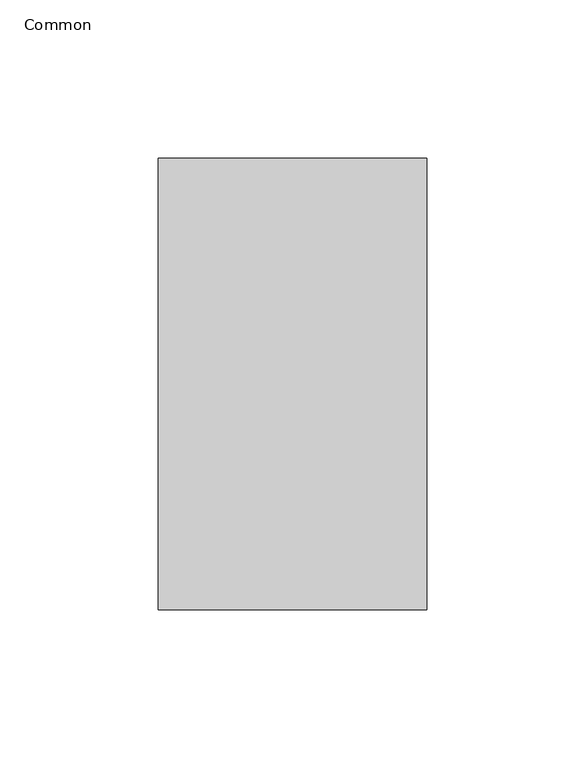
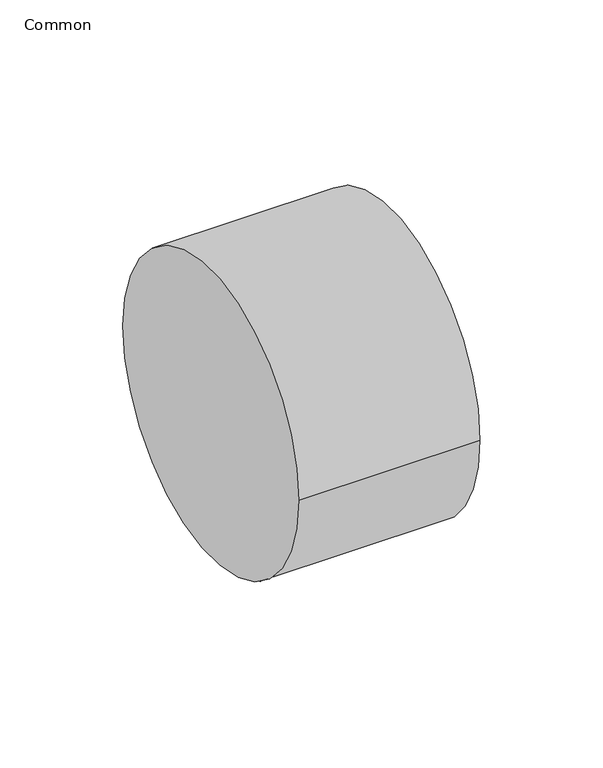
"""IFC4 building model written with IfcOpenShell, lengths in millimetres: pipe fitting geometry, 051_ソケット : Common."""

import ifcopenshell
import ifcopenshell.guid

model = None  # the IFC model being written
_history = None  # IfcOwnerHistory: only IFC2X3 demands one
_inside = {}  # id of a spatial element -> (the spatial element, [elements in it])
_under = {}  # id of a project, library or spatial element -> (it, [spatial elements below it])
_declared = {}  # id of a project -> (the project, [libraries it declares])
_typed = {}  # id of a type object -> (the type object, [elements of that type])
_made_of = {}  # id of a material, layer set ... -> (it, [elements and type objects made of it])


def new_model(schema):
    """Start an empty IFC model of exactly this schema.

    Asked for "IFC4X3", IfcOpenShell would pick the latest addendum, in which some entities
    have other attributes; the version numbers below select the first issue.
    IFC2X3 requires an IfcOwnerHistory on every rooted entity: one is made here for all.
    """
    global model, _history
    if schema == "IFC4X3":
        model = ifcopenshell.file(schema_version=(4, 3, 0, 0))
    else:
        model = ifcopenshell.file(schema=schema)
    _inside.clear()
    _under.clear()
    _declared.clear()
    _typed.clear()
    _made_of.clear()
    _history = None
    if model.schema == "IFC2X3":
        org = make("IfcOrganization", Name="unknown")
        user = make(
            "IfcPersonAndOrganization",
            ThePerson=make("IfcPerson", FamilyName="unknown"),
            TheOrganization=org,
        )
        app = make(
            "IfcApplication",
            ApplicationDeveloper=org,
            Version="unknown",
            ApplicationFullName="unknown",
            ApplicationIdentifier="unknown",
        )
        _history = make(
            "IfcOwnerHistory",
            OwningUser=user,
            OwningApplication=app,
            ChangeAction="ADDED",
            CreationDate=0,
        )
    return model


def make(cls, **values):
    """One entity of the class cls with the attributes given. An attribute that is None is left unset."""
    return model.create_entity(
        cls, **{name: value for name, value in values.items() if value is not None}
    )


def rooted(cls, **values):
    """An entity with a GlobalId (a new one), such as an element, a storey or a relation."""
    return make(cls, GlobalId=ifcopenshell.guid.new(), OwnerHistory=_history, **values)


def si_unit(unit_type, name, prefix=None):
    """IfcSIUnit, for example si_unit("LENGTHUNIT", "METRE", prefix="MILLI")."""
    return make("IfcSIUnit", UnitType=unit_type, Prefix=prefix, Name=name)


def assignment(units):
    """IfcUnitAssignment: the units of a project."""
    return None if units is None else make("IfcUnitAssignment", Units=units)


def point(xyz):
    """IfcCartesianPoint."""
    return None if xyz is None else make("IfcCartesianPoint", Coordinates=xyz)


def direction(xyz):
    """IfcDirection."""
    return None if xyz is None else make("IfcDirection", DirectionRatios=xyz)


def frame(location, z_axis=None, x_axis=None):
    """IfcAxis2Placement3D, a coordinate frame: its origin and axes. An axis left out is left unset."""
    return make(
        "IfcAxis2Placement3D",
        Location=point(location),
        Axis=direction(z_axis),
        RefDirection=direction(x_axis),
    )


def frame_2d(location, x_axis=None):
    """IfcAxis2Placement2D, a coordinate frame in the plane: its origin and x axis."""
    return make(
        "IfcAxis2Placement2D", Location=point(location), RefDirection=direction(x_axis)
    )


def origin():
    """The frame at (0, 0, 0) with its axes left unset."""
    return frame((0.0, 0.0, 0.0))


def origin_2d():
    """The frame at (0, 0) in the plane with its x axis left unset."""
    return frame_2d((0.0, 0.0))


def place(relative_to, where):
    """IfcLocalPlacement: puts the frame where relative to a parent placement (None: the world)."""
    return make(
        "IfcLocalPlacement", PlacementRelTo=relative_to, RelativePlacement=where
    )


def context(
    kind, dimensions, precision=None, world=None, true_north=None, identifier=None
):
    """IfcGeometricRepresentationContext, for example the 3D "Model" context."""
    return make(
        "IfcGeometricRepresentationContext",
        ContextIdentifier=identifier,
        ContextType=kind,
        CoordinateSpaceDimension=dimensions,
        Precision=precision,
        WorldCoordinateSystem=world,
        TrueNorth=true_north,
    )


def project(units=None, contexts=None):
    """IfcProject with its units and contexts."""
    return rooted(
        "IfcProject",
        Name="project",
        RepresentationContexts=contexts,
        UnitsInContext=assignment(units),
    )


def spatial(cls, under=None, at=None, **own):
    """A site, building, storey or space (cls), placed at a placement, below another one or the project."""
    s = rooted(cls, ObjectPlacement=at, **own)
    if under is not None:
        _under.setdefault(under.id(), (under, []))[1].append(s)
    return s


def circle_curve(where, radius):
    """IfcCircle in the frame where."""
    return make("IfcCircle", Position=where, Radius=radius)


def trimmed(basis, trim1, trim2, sense, master):
    """IfcTrimmedCurve: the piece of a basis curve between two trims."""
    return make(
        "IfcTrimmedCurve",
        BasisCurve=basis,
        Trim1=trim1,
        Trim2=trim2,
        SenseAgreement=sense,
        MasterRepresentation=master,
    )


def segment(curve, same_sense, transition):
    """IfcCompositeCurveSegment."""
    return make(
        "IfcCompositeCurveSegment",
        Transition=transition,
        SameSense=same_sense,
        ParentCurve=curve,
    )


def composite_curve(segments, self_intersect=None):
    """IfcCompositeCurve: segments joined end to end."""
    return make("IfcCompositeCurve", Segments=segments, SelfIntersect=self_intersect)


def outline(outer, holes=None, kind="AREA"):
    """IfcArbitraryClosedProfileDef: a profile drawn as a closed curve; with holes, ...WithVoids."""
    if holes is None:
        return make("IfcArbitraryClosedProfileDef", ProfileType=kind, OuterCurve=outer)
    return make(
        "IfcArbitraryProfileDefWithVoids",
        ProfileType=kind,
        OuterCurve=outer,
        InnerCurves=holes,
    )


def extrude(swept, where, along, depth):
    """IfcExtrudedAreaSolid: the profile swept, set in the frame where, extruded along a direction by depth."""
    return make(
        "IfcExtrudedAreaSolid",
        SweptArea=swept,
        Position=where,
        ExtrudedDirection=direction(along),
        Depth=depth,
    )


def shape(context_of_items, identifier, shape_type, items):
    """IfcShapeRepresentation: the items that make up one representation, for example the "Body"."""
    return make(
        "IfcShapeRepresentation",
        ContextOfItems=context_of_items,
        RepresentationIdentifier=identifier,
        RepresentationType=shape_type,
        Items=items,
    )


def source(mapping_origin, context_of_items, identifier, shape_type, items):
    """IfcRepresentationMap: a shape defined once, which mapped items show again and again."""
    return make(
        "IfcRepresentationMap",
        MappingOrigin=mapping_origin,
        MappedRepresentation=shape(context_of_items, identifier, shape_type, items),
    )


def transform(
    local_origin,
    x_axis=None,
    y_axis=None,
    z_axis=None,
    scale=None,
    scale2=None,
    scale3=None,
    uniform=True,
):
    """IfcCartesianTransformationOperator3D, or its non-uniform kind. x_axis, y_axis, z_axis: its Axis1, 2, 3."""
    if uniform:
        return make(
            "IfcCartesianTransformationOperator3D",
            Axis1=direction(x_axis),
            Axis2=direction(y_axis),
            LocalOrigin=point(local_origin),
            Scale=scale,
            Axis3=direction(z_axis),
        )
    return make(
        "IfcCartesianTransformationOperator3DnonUniform",
        Axis1=direction(x_axis),
        Axis2=direction(y_axis),
        LocalOrigin=point(local_origin),
        Scale=scale,
        Axis3=direction(z_axis),
        Scale2=scale2,
        Scale3=scale3,
    )


def mapped(mapping_source, mapping_target):
    """IfcMappedItem: shows the shape of a source again, moved by a transform."""
    return make(
        "IfcMappedItem", MappingSource=mapping_source, MappingTarget=mapping_target
    )


def made_of(thing, what):
    """Note that an element or type object is made of a material, layer set ...; save() writes the relation."""
    if what is not None:
        _made_of.setdefault(what.id(), (what, []))[1].append(thing)
    return thing


def element(
    cls,
    number,
    at=None,
    inside=None,
    cuts=None,
    type_object=None,
    material=None,
    context=None,
    identifier="Body",
    shape_type=None,
    held_by="IfcProductDefinitionShape",
    body=None,
    shapes=None,
    **own,
):
    """One element of the class cls, such as IfcWall. Its Tag is "e" and its number.

    at: its placement. inside: the storey or other place that contains it. cuts: it is an
    opening in that element (IfcRelVoidsElement). A single representation is given by context,
    identifier, shape_type and body (its items); several are given by shapes. held_by: the class
    of the entity that holds the representations. save() writes the other relations.
    """
    e = rooted(cls, Tag="e%d" % number, ObjectPlacement=at, **own)
    if body is not None:
        shapes = [shape(context, identifier, shape_type, body)]
    if shapes is not None:
        e.Representation = make(held_by, Representations=shapes)
    if inside is not None:
        _inside.setdefault(inside.id(), (inside, []))[1].append(e)
    if cuts is not None:
        rooted(
            "IfcRelVoidsElement", RelatingBuildingElement=cuts, RelatedOpeningElement=e
        )
    if type_object is not None:
        _typed.setdefault(type_object.id(), (type_object, []))[1].append(e)
    return made_of(e, material)


def aggregate(whole, parts):
    """IfcRelAggregates: a whole, such as a stair, and the parts it consists of."""
    return rooted("IfcRelAggregates", RelatingObject=whole, RelatedObjects=parts)


def save(model, path):
    """Write the relations noted so far, then the file.

    IfcRelAggregates (storeys below a building ...), IfcRelContainedInSpatialStructure (elements
    in a storey), IfcRelDefinesByType, IfcRelAssociatesMaterial and IfcRelDeclares: one each for
    every whole, place, type object, material and project.
    """
    for whole, parts in _under.values():
        aggregate(whole, parts)
    for where, things in _inside.values():
        rooted(
            "IfcRelContainedInSpatialStructure",
            RelatedElements=things,
            RelatingStructure=where,
        )
    for kind, things in _typed.values():
        rooted("IfcRelDefinesByType", RelatedObjects=things, RelatingType=kind)
    for what, things in _made_of.values():
        rooted("IfcRelAssociatesMaterial", RelatedObjects=things, RelatingMaterial=what)
    for by, libraries in _declared.values():
        rooted("IfcRelDeclares", RelatingContext=by, RelatedDefinitions=libraries)
    model.write(path)


def common_30069bef(model_context):
    return source(origin(), model_context, "Body", "SweptSolid", [
        extrude(outline(composite_curve([segment(trimmed(circle_curve(origin_2d(), 71.5), [point((-71.5, 0.0))], [point((71.5, 0.0))], False, "CARTESIAN"), True, "CONTINUOUS"), segment(trimmed(circle_curve(origin_2d(), 71.5), [point((71.5, 0.0))], [point((-71.5, 0.0))], False, "CARTESIAN"), True, "CONTINUOUS")], self_intersect=False)), frame((-42.5, 0.0, 0.0), z_axis=(1.0, 0.0, 0.0), x_axis=(0.0, 1.0, 0.0)), (0.0, 0.0, 1.0), 85.0),
    ])


if __name__ == "__main__":
    model = new_model("IFC4")
    model_context = context("Model", 3, world=origin())
    ifc_project = project(units=[si_unit("LENGTHUNIT", "METRE", prefix="MILLI")], contexts=[model_context])
    site = spatial("IfcSite", under=ifc_project)
    building = spatial("IfcBuilding", under=site)
    placement = place(None, origin())
    common_shape = common_30069bef(model_context)
    element("IfcPipeFitting", 1, ObjectType="051_ソケット : Common", at=placement, inside=building, context=model_context, shape_type="MappedRepresentation", body=[
        mapped(common_shape, transform((0.0, 0.0, 0.0), x_axis=(1.0, 0.0, 0.0), y_axis=(0.0, 1.0, 0.0), z_axis=(0.0, 0.0, 1.0))),
    ])
    save(model, "model.ifc")
